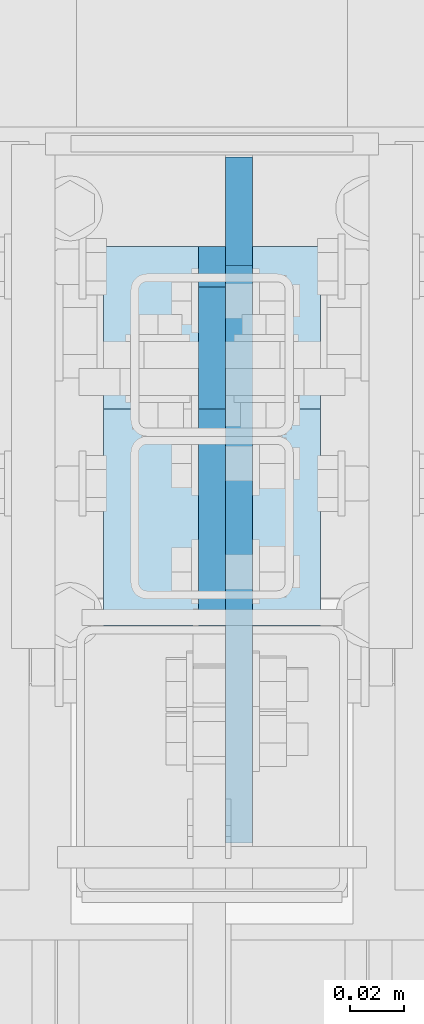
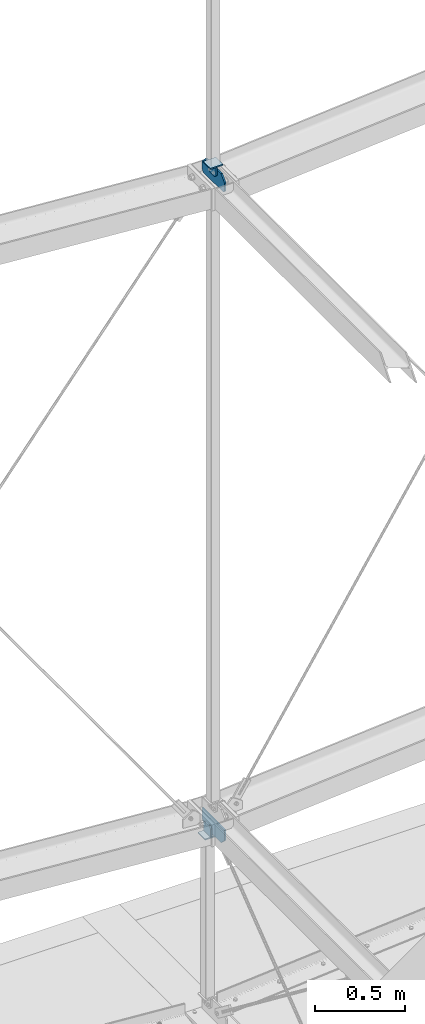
# One storey, part 134 of 271: 6 plates, 4 elements without a shape of their own.
"""IFC2X3 building model written with IfcOpenShell, lengths in millimetres."""

from ifc_helpers import new_model, si_unit, frame, origin_with_axes, place, context, subcontext, project, spatial, polyline, outline, extrude, material, type_object, element, aggregate, save


model = new_model("IFC2X3")

# Units and contexts
model_context = context("Model", 3, precision=1e-05, world=origin_with_axes())
body_context = subcontext(model_context, "Body", "Model", "MODEL_VIEW")
ifc_project = project(units=[si_unit("LENGTHUNIT", "METRE", prefix="MILLI"), si_unit("AREAUNIT", "SQUARE_METRE"), si_unit("VOLUMEUNIT", "CUBIC_METRE"), si_unit("MASSUNIT", "GRAM", prefix="KILO"), si_unit("TIMEUNIT", "SECOND"), si_unit("PLANEANGLEUNIT", "RADIAN"), si_unit("SOLIDANGLEUNIT", "STERADIAN"), si_unit("THERMODYNAMICTEMPERATUREUNIT", "DEGREE_CELSIUS"), si_unit("LUMINOUSINTENSITYUNIT", "LUMEN")], contexts=[model_context])

# Site, building, storey
site_placement = place(None, origin_with_axes())
site = spatial("IfcSite", under=ifc_project, at=site_placement, Name="Undefined", CompositionType="ELEMENT")
building_placement = place(site_placement, origin_with_axes())
building = spatial("IfcBuilding", under=site, at=building_placement, Name="Undefined", CompositionType="ELEMENT")
storey_placement = place(building_placement, origin_with_axes())
storey = spatial("IfcBuildingStorey", under=building, at=storey_placement, Name="Undefined", CompositionType="ELEMENT", Elevation=0.0)

# Assembly, plate
assembly_1_placement = place(storey_placement, origin_with_axes())
assembly_1 = element("IfcElementAssembly", 1, at=assembly_1_placement, inside=storey, AssemblyPlace="NOTDEFINED", PredefinedType="RIGID_FRAME")
ifc_material = material(Name="STEEL/S355JR")
plate_type_1 = type_object("IfcPlateType", Name="BL10*70", PredefinedType="NOTDEFINED")
plate_1_placement = place(assembly_1_placement, frame((6348.37568736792, 3724.92439872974, 1286.59999990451), z_axis=(-1.0, 0.0, 1.38777878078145e-17), x_axis=(0.0, 0.707106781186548, 0.707106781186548)))
plate_1 = element("IfcPlate", 2, at=plate_1_placement, type_object=plate_type_1, material=ifc_material, Name="BLACHA", ObjectType="BL10*70", context=body_context, shape_type="SweptSolid", body=[
    extrude(outline(polyline([(0.0, 0.0), (21.2132034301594, 1.09139364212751e-11), (56.5685424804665, 35.3553390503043), (56.568542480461, 56.5685424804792), (17.6776695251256, 95.4594192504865), (-38.890872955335, 38.8908729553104), (0.0, 0.0)])), frame((0.0, 0.0, -5.0), z_axis=(0.0, 0.0, 1.0), x_axis=(1.0, 0.0, 0.0)), (0.0, 0.0, 1.0), 10.0),
])

assembly_2_placement = place(storey_placement, origin_with_axes())
assembly_2 = element("IfcElementAssembly", 3, at=assembly_2_placement, inside=storey, AssemblyPlace="NOTDEFINED", PredefinedType="RIGID_FRAME")
plate_2_placement = place(assembly_2_placement, frame((6348.37568736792, 3744.92439872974, 5762.09999990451), z_axis=(-1.0, 0.0, 1.38777878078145e-17), x_axis=(0.0, -0.707106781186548, -0.707106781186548)))
plate_2 = element("IfcPlate", 4, at=plate_2_placement, type_object=plate_type_1, material=ifc_material, Name="BLACHA", ObjectType="BL10*70", context=body_context, shape_type="SweptSolid", body=[
    extrude(outline(polyline([(0.0, 0.0), (21.2132034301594, 1.09139364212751e-11), (56.5685424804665, 35.3553390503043), (56.568542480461, 56.5685424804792), (17.6776695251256, 95.4594192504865), (-38.890872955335, 38.8908729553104), (0.0, 0.0)])), frame((0.0, 0.0, -5.0), z_axis=(0.0, 0.0, 1.0), x_axis=(1.0, 0.0, 0.0)), (0.0, 0.0, 1.0), 10.0),
])

# Plate
plate_type_2 = type_object("IfcPlateType", Name="BL8*80", PredefinedType="NOTDEFINED")
plate_3_placement = place(assembly_1_placement, frame((6388.37568736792, 3724.92439872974, 1227.59999990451), z_axis=(0.0, 0.0, 1.0), x_axis=(0.0, 1.0, 0.0)))
plate_3 = element("IfcPlate", 5, at=plate_3_placement, type_object=plate_type_2, material=ifc_material, Name="BLACHA", ObjectType="BL8*80", context=body_context, shape_type="SweptSolid", body=[
    extrude(outline(polyline([(0.0, 0.0), (80.0, 0.0), (80.0, 80.0), (0.0, 80.0), (0.0, 0.0)])), frame((0.0, 0.0, -4.0), z_axis=(0.0, 0.0, 1.0), x_axis=(1.0, 0.0, 0.0)), (0.0, 0.0, 1.0), 8.0),
])

aggregate(assembly_1, [plate_3, plate_1])

plate_4_placement = place(assembly_2_placement, frame((6388.37568736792, 3744.92439872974, 5821.09999990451), z_axis=(0.0, 0.0, -1.0), x_axis=(0.0, -1.0, 0.0)))
plate_4 = element("IfcPlate", 6, at=plate_4_placement, type_object=plate_type_2, material=ifc_material, Name="BLACHA", ObjectType="BL8*80", context=body_context, shape_type="SweptSolid", body=[
    extrude(outline(polyline([(0.0, 0.0), (80.0, 0.0), (80.0, 80.0), (0.0, 80.0), (0.0, 0.0)])), frame((0.0, 0.0, -4.0), z_axis=(0.0, 0.0, 1.0), x_axis=(1.0, 0.0, 0.0)), (0.0, 0.0, 1.0), 8.0),
])

aggregate(assembly_2, [plate_4, plate_2])

# Assembly, plate
assembly_3_placement = place(storey_placement, origin_with_axes())
assembly_3 = element("IfcElementAssembly", 7, at=assembly_3_placement, inside=storey, AssemblyPlace="NOTDEFINED", PredefinedType="RIGID_FRAME")
plate_type_3 = type_object("IfcPlateType", Name="BL10*110", PredefinedType="NOTDEFINED")
plate_5_placement = place(assembly_3_placement, frame((6358.37568736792, 3584.92439872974, 1361.59999990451), z_axis=(-1.0, 0.0, 1.38777878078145e-17), x_axis=(0.0, 1.0, 0.0)))
plate_5 = element("IfcPlate", 8, at=plate_5_placement, type_object=plate_type_3, material=ifc_material, Name="BLACHA", ObjectType="BL10*110", context=body_context, shape_type="SweptSolid", body=[
    extrude(outline(polyline([(0.0, 0.0), (253.0, 0.0), (253.0, 70.0), (213.0, 110.0), (40.0, 110.0), (0.0, 70.0), (0.0, 0.0)])), frame((0.0, 0.0, -5.0), z_axis=(0.0, 0.0, 1.0), x_axis=(1.0, 0.0, 0.0)), (0.0, 0.0, 1.0), 10.0),
])
aggregate(assembly_3, [plate_5])

assembly_4_placement = place(storey_placement, origin_with_axes())
assembly_4 = element("IfcElementAssembly", 9, at=assembly_4_placement, inside=storey, AssemblyPlace="NOTDEFINED", PredefinedType="RIGID_FRAME")
plate_6_placement = place(assembly_4_placement, frame((6358.37568736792, 3837.92439872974, 5687.09999990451), z_axis=(-1.0, 0.0, 1.38777878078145e-17), x_axis=(0.0, -1.0, 0.0)))
plate_6 = element("IfcPlate", 10, at=plate_6_placement, type_object=plate_type_3, material=ifc_material, Name="BLACHA", ObjectType="BL10*110", context=body_context, shape_type="SweptSolid", body=[
    extrude(outline(polyline([(0.0, 15.0), (15.0, -1.59872115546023e-14), (238.0, -1.4210854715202e-14), (253.0, 15.0), (253.0, 70.0), (213.0, 110.0), (40.0, 110.0), (0.0, 70.0), (0.0, 15.0)])), frame((0.0, 0.0, -5.0), z_axis=(0.0, 0.0, 1.0), x_axis=(1.0, 0.0, 0.0)), (0.0, 0.0, 1.0), 10.0),
])
aggregate(assembly_4, [plate_6])

save(model, "model.ifc")
